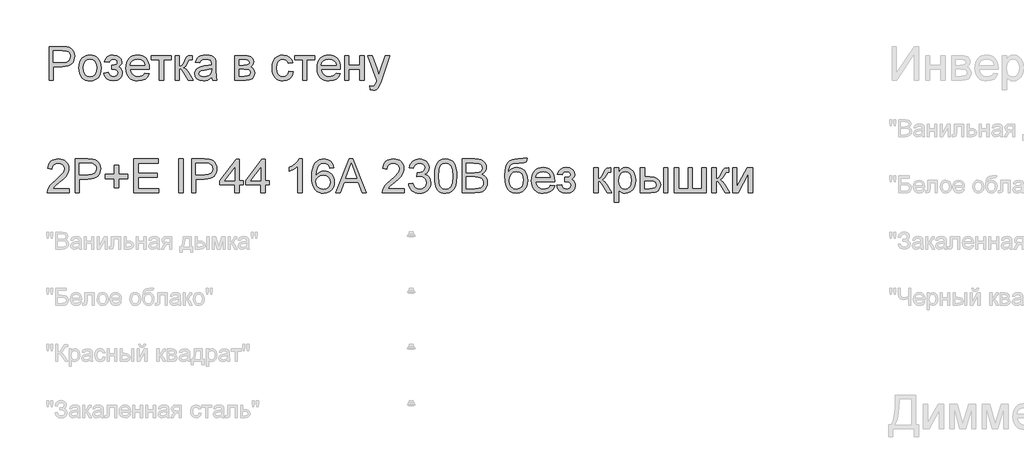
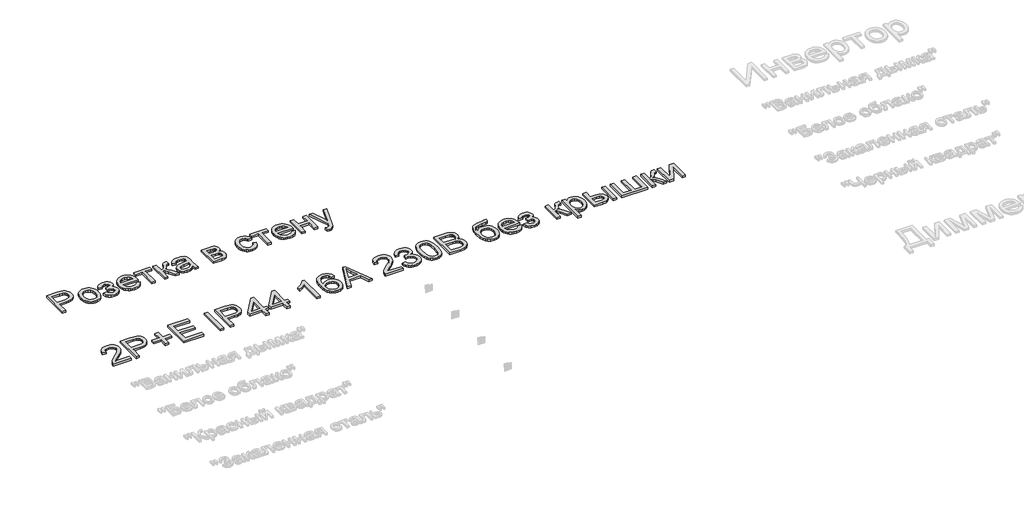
# One storey, part 163 of 168: 2 proxies.
"""IFC4 building model written with IfcOpenShell, lengths in millimetres."""

from ifc_helpers import new_model, si_unit, origin, origin_with_axes, place, context, project, spatial, polyline, outline, extrude, element, save

model = new_model("IFC4")

# Units and contexts
model_context = context("Model", 3, world=origin())
ifc_project = project(units=[si_unit("LENGTHUNIT", "METRE", prefix="MILLI")], contexts=[model_context])

# Site, building, storey
site = spatial("IfcSite", under=ifc_project)
building = spatial("IfcBuilding", under=site)
storey = spatial("IfcBuildingStorey", under=building, Name="Этаж 01", Elevation=0.0)

# Proxies
placement = place(None, origin())
element("IfcBuildingElementProxy", 1, Name="300 мм Arial 2", ObjectType="300 мм Arial 2", at=placement, inside=storey, context=model_context, shape_type="SweptSolid", body=[
    extrude(outline(polyline([(63599.0945017, -5048.4056816), (63599.0945017, -4747.0367511), (63710.7834754, -4747.0367511), (63755.8122316, -4749.9062307), (63775.8893915, -4755.2681108), (63792.4164901, -4763.9961111), (63805.7246213, -4776.4857048), (63816.1448788, -4793.1323651), (63822.8771193, -4812.7680666), (63825.1211995, -4834.224784), (63823.6059855, -4852.7246498), (63819.0603436, -4869.7437906), (63811.4842738, -4885.2822064), (63800.877776, -4899.3398971), (63786.3165468, -4910.9925593), (63766.8762826, -4919.3158895), (63742.5569835, -4924.3098875), (63713.3586494, -4925.9745536), (63636.765618, -4925.9745536), (63636.765618, -5048.4056816), (63599.0945017, -5048.4056816)]), holes=[polyline([(63636.765618, -4888.3034373), (63715.5659413, -4888.3034373), (63748.9696265, -4884.8453465), (63771.0425462, -4874.4710742), (63783.3481989, -4857.824414), (63787.4500832, -4835.5491592), (63785.0312591, -4818.6265874), (63777.7747867, -4804.352766), (63766.581977, -4793.6106117), (63752.3541408, -4787.2830414), (63714.6830245, -4784.7078674), (63636.765618, -4784.7078674), (63636.765618, -4888.3034373)])]), origin_with_axes(), (0.0, 0.0, 1.0), 20.0),
    extrude(outline(polyline([(63862.7923158, -4937.7467774), (63864.8294623, -4909.0841715), (63870.940902, -4884.385494), (63881.1266347, -4863.6507451), (63895.3866606, -4846.8799246), (63909.7432554, -4836.160763), (63925.5897724, -4828.504219), (63942.9262114, -4823.9102925), (63961.7525725, -4822.3789837), (63982.535606, -4824.2436856), (64001.3274781, -4829.8377912), (64018.128189, -4839.1613005), (64032.9377386, -4852.2142135), (64045.0249614, -4868.5550719), (64053.6586919, -4887.7424172), (64058.8389303, -4909.7762495), (64060.5656764, -4934.6565687), (64057.5122558, -4972.7139611), (64048.3519942, -5001.6846682), (64033.3516058, -5023.3805088), (64012.7778052, -5039.6133019), (63988.3412437, -5049.7392538), (63961.7525725, -5053.1145711), (63940.6660364, -5051.256767), (63921.6994203, -5045.6833548), (63904.8527242, -5036.3943344), (63890.125948, -5023.3897059), (63878.1674839, -5006.8901984), (63869.6257239, -4987.1165412), (63864.5006678, -4964.0687342), (63862.7923158, -4937.7467774)]), holes=[polyline([(63900.4634321, -4937.673201), (63904.8228337, -4971.7666649), (63917.9010387, -4996.0560737), (63937.5827254, -5010.5966095), (63961.7525725, -5015.4434548), (63985.812055, -5010.5690184), (64005.4569535, -4995.9457091), (64018.5351585, -4971.3344036), (64022.8945601, -4936.4959786), (64018.5075673, -4903.3957961), (64005.3465889, -4879.4374812), (63985.6740992, -4864.8969453), (63961.7525725, -4860.0501), (63937.5827254, -4864.8785512), (63917.9010387, -4879.3639048), (63904.8228337, -4903.5981312), (63900.4634321, -4937.673201)])]), origin_with_axes(), (0.0, 0.0, 1.0), 20.0),
    extrude(outline(polyline([(64154.7434672, -4949.5190013), (64154.7434672, -4911.847885), (64184.4683324, -4910.376357), (64199.4779178, -4902.5404705), (64204.7754185, -4895.1920276), (64206.5412521, -4886.1697217), (64204.1776103, -4875.4551586), (64197.0866848, -4867.1502225), (64186.2617571, -4861.8251307), (64172.6961085, -4860.0501), (64158.9833072, -4861.8159336), (64147.4961919, -4867.1134343), (64138.2347626, -4875.9426022), (64131.1990195, -4888.3034373), (64088.8190136, -4883.5945477), (64100.0578086, -4856.8127385), (64117.1459273, -4837.6828747), (64140.0833697, -4826.2049565), (64168.8701358, -4822.3789837), (64200.3608346, -4827.041888), (64224.1995879, -4841.0306009), (64239.2091733, -4861.4940369), (64244.2123684, -4885.5811105), (64242.4327392, -4897.9419455), (64237.0938518, -4908.9784054), (64228.195706, -4918.6904901), (64215.738302, -4927.0781996), (64230.2788378, -4937.5444423), (64240.643913, -4950.5490709), (64246.8519217, -4966.1288733), (64248.9212579, -4984.320638), (64243.6697425, -5012.0497434), (64227.915196, -5034.0214956), (64202.7244764, -5048.3413022), (64169.1644414, -5053.1145711), (64136.3401704, -5048.6999872), (64111.2230271, -5035.4562353), (64093.8130117, -5013.3833156), (64084.1101241, -4982.481228), (64126.4901299, -4977.7723385), (64132.8360944, -4993.7016289), (64143.4862781, -5005.5842173), (64157.2082765, -5012.9786454), (64172.7696849, -5015.4434548), (64187.9264231, -5013.079813), (64200.2872582, -5005.9888875), (64208.5094208, -4995.2191421), (64211.2501416, -4981.8190404), (64209.5486874, -4971.2056449), (64204.4443247, -4962.0269891), (64189.9497741, -4951.4319876), (64162.1011071, -4949.2982721), (64154.7434672, -4949.5190013)])), origin_with_axes(), (0.0, 0.0, 1.0), 20.0),
    extrude(outline(polyline([(64450.9620497, -4982.481228), (64487.897402, -4987.1901176), (64474.5892708, -5015.0203905), (64453.3532827, -5035.8241173), (64424.6676841, -5048.7919577), (64389.0107217, -5053.1145711), (64365.6364194, -5051.2498692), (64344.8097, -5045.6557637), (64326.5305633, -5036.3322543), (64310.7990095, -5023.2793413), (64298.1484674, -5006.860308), (64289.1123659, -4987.4384379), (64283.690705, -4965.013731), (64281.8834847, -4939.5861874), (64283.7090991, -4913.2964203), (64289.1859423, -4890.1244531), (64298.3140143, -4870.0702859), (64311.0933151, -4853.1339185), (64326.7834822, -4839.6786346), (64344.6441531, -4830.0677174), (64364.6753277, -4824.3011672), (64386.8770061, -4822.3789837), (64408.3636139, -4824.2965686), (64427.794681, -4830.0493233), (64445.1702075, -4839.6372478), (64460.4901934, -4853.0603421), (64472.9958819, -4869.9599213), (64481.9285166, -4889.9773003), (64487.2880975, -4913.1124793), (64489.0746244, -4939.3654582), (64488.8538952, -4949.5190013), (64319.554601, -4949.5190013), (64326.0753094, -4977.7171562), (64341.2228505, -4998.4473066), (64363.0842381, -5011.1944178), (64389.7464857, -5015.4434548), (64409.7960544, -5013.4752861), (64426.681838, -5007.5707801), (64440.4038364, -4997.3620547), (64450.9620497, -4982.481228)]), holes=[polyline([(64319.554601, -4911.847885), (64451.4035081, -4911.847885), (64446.3083425, -4891.945469), (64436.3203463, -4877.7084358), (64414.3577912, -4864.464684), (64386.7298533, -4860.0501), (64361.3367986, -4863.5725701), (64340.3399337, -4874.1399805), (64325.7442156, -4890.6118968), (64319.554601, -4911.847885)])]), origin_with_axes(), (0.0, 0.0, 1.0), 20.0),
    extrude(outline(polyline([(64507.9101825, -4827.0878733), (64686.847985, -4827.0878733), (64686.847985, -4864.7589896), (64616.2146419, -4864.7589896), (64616.2146419, -5048.4056816), (64578.5435256, -5048.4056816), (64578.5435256, -4864.7589896), (64507.9101825, -4864.7589896), (64507.9101825, -4827.0878733)])), origin_with_axes(), (0.0, 0.0, 1.0), 20.0),
    extrude(outline(polyline([(64719.8102118, -4827.0878733), (64757.4813281, -4827.0878733), (64757.4813281, -4921.265664), (64772.8036132, -4919.5734069), (64782.7180329, -4914.4966353), (64791.4920185, -4901.2528835), (64803.3930011, -4875.0596854), (64820.5730902, -4841.0306009), (64835.7298284, -4829.9573528), (64863.2841899, -4827.0878733), (64870.494677, -4827.0878733), (64870.494677, -4864.9797188), (64860.3411339, -4864.7589896), (64841.9470342, -4868.7321151), (64828.9975879, -4893.5273616), (64813.8040615, -4920.345959), (64792.503694, -4933.4793463), (64804.4414648, -4938.7814455), (64816.2688709, -4948.1394438), (64839.5925894, -4979.0231373), (64879.9124561, -5048.4056816), (64837.0909918, -5048.4056816), (64797.5804655, -4980.4946653), (64777.7148378, -4951.7630814), (64768.4258174, -4946.5483542), (64757.4813281, -4944.8101117), (64757.4813281, -5048.4056816), (64719.8102118, -5048.4056816), (64719.8102118, -4827.0878733)])), origin_with_axes(), (0.0, 0.0, 1.0), 20.0),
    extrude(outline(polyline([(65044.7235899, -5020.1523443), (65026.7249633, -5035.584994), (65008.1929078, -5045.6833548), (64988.7043591, -5051.256767), (64967.8362529, -5053.1145711), (64936.3547512, -5048.6448049), (64913.1322002, -5035.2355061), (64898.8123936, -5014.8732377), (64894.0391247, -4989.5445623), (64895.8417465, -4973.9279716), (64901.2496118, -4959.7461207), (64909.591336, -4947.6060149), (64920.1955345, -4938.1146594), (64946.5726736, -4925.7538244), (64979.1670184, -4920.0884417), (65017.6842633, -4914.1287533), (65044.5028607, -4907.1389954), (65044.7235899, -4898.7512859), (65042.1300218, -4881.9390788), (65034.3493176, -4870.9394071), (65016.9484993, -4862.7724268), (64992.7050758, -4860.0501), (64970.2642741, -4861.8619189), (64954.5925011, -4867.2973753), (64943.9055291, -4877.3497509), (64936.4191305, -4893.0123268), (64898.7480142, -4888.3034373), (64905.2871167, -4867.7020455), (64915.0451866, -4851.5152378), (64928.9327319, -4839.1360086), (64947.8602606, -4829.9573528), (64971.0092351, -4824.273576), (64997.5611181, -4822.3789837), (65023.0277492, -4824.0528468), (65043.2152737, -4829.074436), (65058.4363913, -4836.625214), (65069.0038016, -4845.8866432), (65076.0119536, -4857.3369703), (65080.5552962, -4871.4544419), (65082.3947062, -4904.4166687), (65082.3947062, -4951.2848348), (65084.3076926, -5016.7310418), (65091.8124853, -5048.4056816), (65054.141369, -5048.4056816), (65044.7235899, -5020.1523443)]), holes=[polyline([(65044.7235899, -4944.8101117), (64983.9494843, -4956.3616064), (64951.5390805, -4962.4684475), (64936.8605889, -4972.4012614), (64931.710241, -4986.895812), (64934.5153412, -4998.0978187), (64942.9306418, -5007.2764745), (64956.7722019, -5013.4017097), (64975.8560804, -5015.4434548), (64996.0895901, -5013.1901776), (65013.9686551, -5006.4303459), (65028.4632057, -4996.4699409), (65038.5431724, -4984.6149436), (65043.0129386, -4972.4012614), (65044.5028607, -4955.4786896), (65044.7235899, -4944.8101117)])]), origin_with_axes(), (0.0, 0.0, 1.0), 20.0),
    extrude(outline(polyline([(65251.9147296, -4827.0878733), (65334.9089077, -4827.0878733), (65361.5895494, -4828.3478691), (65380.4159105, -4832.1278566), (65394.2666676, -4839.2647673), (65406.0204974, -4850.5955328), (65414.0495219, -4865.3567978), (65416.7258634, -4882.7852073), (65415.1071826, -4896.8291025), (65410.2511403, -4908.9416172), (65402.1393423, -4919.1779337), (65390.7533946, -4927.5932344), (65404.6961222, -4935.4199238), (65416.0636758, -4948.0106851), (65423.6236508, -4964.3722368), (65426.1436425, -4983.5112976), (65419.7608899, -5012.2244873), (65404.5857576, -5032.439603), (65380.5630633, -5044.4141619), (65347.6376247, -5048.4056816), (65251.9147296, -5048.4056816), (65251.9147296, -4827.0878733)]), holes=[polyline([(65289.5858459, -4911.847885), (65326.8155038, -4911.847885), (65357.5336504, -4909.9348986), (65372.4696594, -4902.2829531), (65377.4084752, -4895.9553828), (65379.0547471, -4888.4505901), (65376.1668735, -4877.2117951), (65367.5032525, -4869.9829139), (65351.8498736, -4866.0649707), (65327.9927262, -4864.7589896), (65289.5858459, -4864.7589896), (65289.5858459, -4911.847885)]), polyline([(65289.5858459, -5010.7345653), (65335.7918245, -5010.7345653), (65360.9733471, -5009.033111), (65376.7738788, -5003.9287484), (65385.2535587, -4994.648925), (65388.4725262, -4980.4210889), (65386.8630425, -4970.9941127), (65382.0345913, -4962.2845065), (65374.6217691, -4955.4694925), (65365.2591723, -4951.7262932), (65332.1130045, -4949.5190013), (65289.5858459, -4949.5190013), (65289.5858459, -5010.7345653)])]), origin_with_axes(), (0.0, 0.0, 1.0), 20.0),
    extrude(outline(polyline([(65732.2214625, -4968.3545594), (65769.8925788, -4973.063449), (65759.3895478, -5006.5683017), (65739.6526788, -5031.88778), (65712.5397757, -5047.8078733), (65679.9086428, -5053.1145711), (65658.7807199, -5051.2636648), (65639.8370965, -5045.710946), (65623.0777723, -5036.4564145), (65608.5027475, -5023.5000705), (65596.7052318, -5007.0856357), (65588.2784348, -4987.456832), (65583.2223567, -4964.6136594), (65581.5369973, -4938.5561178), (65584.4156739, -4905.032871), (65593.0517037, -4875.9793904), (65607.5830425, -4852.5177162), (65628.1476461, -4835.7698884), (65652.7497545, -4825.7267099), (65679.393608, -4822.3789837), (65711.2245976, -4826.9775087), (65736.6728346, -4840.7730835), (65754.9289786, -4863.0299442), (65765.1836893, -4893.0123268), (65727.512573, -4897.7212163), (65720.6791649, -4881.2860882), (65710.0381782, -4869.5046673), (65696.178224, -4862.4137419), (65679.6879136, -4860.0501), (65655.3433225, -4864.7038073), (65636.0203208, -4878.664929), (65623.4111654, -4902.6876233), (65619.2081136, -4937.5260482), (65623.3191949, -4972.8335227), (65635.6524388, -4996.9389904), (65654.6259527, -5010.8173387), (65678.657844, -5015.4434548), (65698.1647868, -5012.5555811), (65714.1584565, -5003.8919602), (65725.7927246, -4989.2318626), (65732.2214625, -4968.3545594)])), origin_with_axes(), (0.0, 0.0, 1.0), 20.0),
    extrude(outline(polyline([(65784.0192474, -4827.0878733), (65962.9570499, -4827.0878733), (65962.9570499, -4864.7589896), (65892.3237068, -4864.7589896), (65892.3237068, -5048.4056816), (65854.6525905, -5048.4056816), (65854.6525905, -4864.7589896), (65784.0192474, -4864.7589896), (65784.0192474, -4827.0878733)])), origin_with_axes(), (0.0, 0.0, 1.0), 20.0),
    extrude(outline(polyline([(66150.871173, -4982.481228), (66187.8065253, -4987.1901176), (66174.4983941, -5015.0203905), (66153.262406, -5035.8241173), (66124.5768074, -5048.7919577), (66088.919845, -5053.1145711), (66065.5455427, -5051.2498692), (66044.7188233, -5045.6557637), (66026.4396867, -5036.3322543), (66010.7081328, -5023.2793413), (65998.0575907, -5006.860308), (65989.0214892, -4987.4384379), (65983.5998283, -4965.013731), (65981.792608, -4939.5861874), (65983.6182224, -4913.2964203), (65989.0950656, -4890.1244531), (65998.2231376, -4870.0702859), (66011.0024384, -4853.1339185), (66026.6926055, -4839.6786346), (66044.5532764, -4830.0677174), (66064.584451, -4824.3011672), (66086.7861294, -4822.3789837), (66108.2727372, -4824.2965686), (66127.7038044, -4830.0493233), (66145.0793308, -4839.6372478), (66160.3993167, -4853.0603421), (66172.9050053, -4869.9599213), (66181.8376399, -4889.9773003), (66187.1972208, -4913.1124793), (66188.9837477, -4939.3654582), (66188.7630185, -4949.5190013), (66019.4637243, -4949.5190013), (66025.9844327, -4977.7171562), (66041.1319738, -4998.4473066), (66062.9933614, -5011.1944178), (66089.655609, -5015.4434548), (66109.7051777, -5013.4752861), (66126.5909613, -5007.5707801), (66140.3129597, -4997.3620547), (66150.871173, -4982.481228)]), holes=[polyline([(66019.4637243, -4911.847885), (66151.3126314, -4911.847885), (66146.2174658, -4891.945469), (66136.2294696, -4877.7084358), (66114.2669145, -4864.464684), (66086.6389766, -4860.0501), (66061.2459219, -4863.5725701), (66040.2490571, -4874.1399805), (66025.6533389, -4890.6118968), (66019.4637243, -4911.847885)])]), origin_with_axes(), (0.0, 0.0, 1.0), 20.0),
    extrude(outline(polyline([(66226.654864, -4827.0878733), (66264.3259803, -4827.0878733), (66264.3259803, -4911.847885), (66363.2126606, -4911.847885), (66363.2126606, -4827.0878733), (66400.8837769, -4827.0878733), (66400.8837769, -5048.4056816), (66363.2126606, -5048.4056816), (66363.2126606, -4949.5190013), (66264.3259803, -4949.5190013), (66264.3259803, -5048.4056816), (66226.654864, -5048.4056816), (66226.654864, -4827.0878733)])), origin_with_axes(), (0.0, 0.0, 1.0), 20.0),
    extrude(outline(polyline([(66457.3904514, -5133.1656933), (66452.6815618, -5096.8925285), (66471.8114256, -5100.2034665), (66489.6904906, -5096.0463999), (66500.653374, -5084.4581171), (66510.9540699, -5056.7198147), (66513.8971258, -5047.5963412), (66433.8460037, -4827.0878733), (66473.5772592, -4827.0878733), (66516.0308414, -4949.9604597), (66530.8196976, -4999.1094942), (66545.6085538, -4955.6994188), (66589.2393585, -4827.0878733), (66628.6763083, -4827.0878733), (66551.6418185, -5053.7031823), (66531.629038, -5102.8522169), (66521.3835244, -5118.5423839), (66509.7768475, -5129.4132969), (66496.2939724, -5135.7592613), (66480.4198643, -5137.8745828), (66457.3904514, -5133.1656933)])), origin_with_axes(), (0.0, 0.0, 1.0), 20.0),
])
element("IfcBuildingElementProxy", 2, Name="300 мм Arial 2", ObjectType="300 мм Arial 2", at=placement, inside=storey, context=model_context, shape_type="SweptSolid", body=[
    extrude(outline(polyline([(63778.0323041, -6010.7345653), (63778.0323041, -6048.4056816), (63580.2589435, -6048.4056816), (63584.3056455, -6022.4332127), (63593.5946658, -6002.1353236), (63607.1879056, -5982.4444398), (63626.8511982, -5961.8338511), (63654.3503773, -5938.776847), (63695.0013378, -5902.6692292), (63719.3919141, -5876.0161786), (63731.5872022, -5854.3847173), (63735.6522983, -5833.3418672), (63731.8171285, -5814.4787179), (63720.3116191, -5798.7977478), (63702.6256922, -5788.2303375), (63680.2492698, -5784.7078674), (63656.7508074, -5788.1475641), (63638.4946633, -5798.466654), (63626.7132424, -5814.8557969), (63622.6389493, -5836.5056523), (63584.967833, -5831.7967628), (63594.1005036, -5795.3580512), (63602.6468622, -5780.8221139), (63613.8465697, -5768.7417888), (63627.4421086, -5759.2458348), (63643.1759617, -5752.4630105), (63681.0586102, -5747.0367511), (63701.2484339, -5748.5450673), (63719.2171701, -5753.0700158), (63734.9648188, -5760.6115967), (63748.4913799, -5771.16981), (63759.3553951, -5783.9629064), (63767.1154059, -5798.2091366), (63771.7714124, -5813.9085008), (63773.3234146, -5831.0609988), (63771.6495515, -5849.0780195), (63766.6279623, -5866.7823406), (63757.7160209, -5884.7901642), (63744.3711016, -5903.7176929), (63723.0983252, -5926.3148444), (63690.4028129, -5955.3315368), (63647.0663138, -5991.5679133), (63630.0701657, -6010.7345653), (63778.0323041, -6010.7345653)])), origin_with_axes(), (0.0, 0.0, 1.0), 20.0),
    extrude(outline(polyline([(63829.830089, -6048.4056816), (63829.830089, -5747.0367511), (63941.5190628, -5747.0367511), (63986.547819, -5749.9062307), (64006.6249789, -5755.2681108), (64023.1520775, -5763.9961111), (64036.4602087, -5776.4857048), (64046.8804662, -5793.1323651), (64053.6127067, -5812.7680666), (64055.8567869, -5834.224784), (64054.3415729, -5852.7246498), (64049.795931, -5869.7437906), (64042.2198612, -5885.2822064), (64031.6133634, -5899.3398971), (64017.0521342, -5910.9925593), (63997.61187, -5919.3158895), (63973.2925708, -5924.3098875), (63944.0942367, -5925.9745536), (63867.5012053, -5925.9745536), (63867.5012053, -6048.4056816), (63829.830089, -6048.4056816)]), holes=[polyline([(63867.5012053, -5888.3034373), (63946.3015287, -5888.3034373), (63979.7052139, -5884.8453465), (64001.7781336, -5874.4710742), (64014.0837863, -5857.824414), (64018.1856706, -5835.5491592), (64015.7668464, -5818.6265874), (64008.5103741, -5804.352766), (63997.3175644, -5793.6106117), (63983.0897282, -5787.2830414), (63945.4186119, -5784.7078674), (63867.5012053, -5784.7078674), (63867.5012053, -5888.3034373)])]), origin_with_axes(), (0.0, 0.0, 1.0), 20.0),
    extrude(outline(polyline([(64178.2879149, -6001.3167862), (64178.2879149, -5921.265664), (64098.2367927, -5921.265664), (64098.2367927, -5883.5945477), (64178.2879149, -5883.5945477), (64178.2879149, -5803.5434256), (64215.9590312, -5803.5434256), (64215.9590312, -5883.5945477), (64296.0101533, -5883.5945477), (64296.0101533, -5921.265664), (64215.9590312, -5921.265664), (64215.9590312, -6001.3167862), (64178.2879149, -6001.3167862)])), origin_with_axes(), (0.0, 0.0, 1.0), 20.0),
    extrude(outline(polyline([(64352.5168278, -6048.4056816), (64352.5168278, -5747.0367511), (64569.1257465, -5747.0367511), (64569.1257465, -5784.7078674), (64390.1879441, -5784.7078674), (64390.1879441, -5874.1767687), (64559.7079675, -5874.1767687), (64559.7079675, -5911.847885), (64390.1879441, -5911.847885), (64390.1879441, -6010.7345653), (64573.8346361, -6010.7345653), (64573.8346361, -6048.4056816), (64352.5168278, -6048.4056816)])), origin_with_axes(), (0.0, 0.0, 1.0), 20.0),
    extrude(outline(polyline([(64752.7724385, -6048.4056816), (64752.7724385, -5747.0367511), (64790.4435548, -5747.0367511), (64790.4435548, -6048.4056816), (64752.7724385, -6048.4056816)])), origin_with_axes(), (0.0, 0.0, 1.0), 20.0),
    extrude(outline(polyline([(64865.7857875, -6048.4056816), (64865.7857875, -5747.0367511), (64977.4747612, -5747.0367511), (65022.5035174, -5749.9062307), (65042.5806773, -5755.2681108), (65059.1077759, -5763.9961111), (65072.4159071, -5776.4857048), (65082.8361646, -5793.1323651), (65089.5684051, -5812.7680666), (65091.8124853, -5834.224784), (65090.2972713, -5852.7246498), (65085.7516294, -5869.7437906), (65078.1755596, -5885.2822064), (65067.5690618, -5899.3398971), (65053.0078326, -5910.9925593), (65033.5675684, -5919.3158895), (65009.2482693, -5924.3098875), (64980.0499352, -5925.9745536), (64903.4569038, -5925.9745536), (64903.4569038, -6048.4056816), (64865.7857875, -6048.4056816)]), holes=[polyline([(64903.4569038, -5888.3034373), (64982.2572271, -5888.3034373), (65015.6609123, -5884.8453465), (65037.733832, -5874.4710742), (65050.0394847, -5857.824414), (65054.141369, -5835.5491592), (65051.7225449, -5818.6265874), (65044.4660725, -5804.352766), (65033.2732628, -5793.6106117), (65019.0454266, -5787.2830414), (64981.3743103, -5784.7078674), (64903.4569038, -5784.7078674), (64903.4569038, -5888.3034373)])]), origin_with_axes(), (0.0, 0.0, 1.0), 20.0),
    extrude(outline(polyline([(65251.9147296, -6048.4056816), (65251.9147296, -5977.7723385), (65115.356933, -5977.7723385), (65115.356933, -5940.1012222), (65261.3325087, -5751.7456407), (65289.5858459, -5751.7456407), (65289.5858459, -5940.1012222), (65327.2569622, -5940.1012222), (65327.2569622, -5977.7723385), (65289.5858459, -5977.7723385), (65289.5858459, -6048.4056816), (65251.9147296, -6048.4056816)]), holes=[polyline([(65251.9147296, -5940.1012222), (65251.9147296, -5823.7033589), (65161.7100644, -5940.1012222), (65251.9147296, -5940.1012222)])]), origin_with_axes(), (0.0, 0.0, 1.0), 20.0),
    extrude(outline(polyline([(65482.650317, -6048.4056816), (65482.650317, -5977.7723385), (65346.0925204, -5977.7723385), (65346.0925204, -5940.1012222), (65492.068096, -5751.7456407), (65520.3214333, -5751.7456407), (65520.3214333, -5940.1012222), (65557.9925496, -5940.1012222), (65557.9925496, -5977.7723385), (65520.3214333, -5977.7723385), (65520.3214333, -6048.4056816), (65482.650317, -6048.4056816)]), holes=[polyline([(65482.650317, -5940.1012222), (65482.650317, -5823.7033589), (65392.4456517, -5940.1012222), (65482.650317, -5940.1012222)])]), origin_with_axes(), (0.0, 0.0, 1.0), 20.0),
    extrude(outline(polyline([(65849.9437009, -6048.4056816), (65812.2725846, -6048.4056816), (65812.2725846, -5813.5498158), (65776.5880311, -5838.9704617), (65736.930352, -5857.9899609), (65736.930352, -5822.3789837), (65766.5172615, -5806.2841464), (65792.1494395, -5787.1358886), (65812.3553581, -5766.7736202), (65825.6634893, -5747.0367511), (65849.9437009, -5747.0367511), (65849.9437009, -6048.4056816)])), origin_with_axes(), (0.0, 0.0, 1.0), 20.0),
    extrude(outline(polyline([(66132.4770732, -5827.0878733), (66094.8059569, -5831.7967628), (66088.735904, -5813.1267516), (66080.5321355, -5800.3796404), (66063.4440168, -5788.6258107), (66042.7874428, -5784.7078674), (66025.2762598, -5786.9887358), (66008.7951465, -5793.8313409), (65994.6408867, -5808.2431181), (65983.080195, -5828.0811547), (65975.2718997, -5856.1413538), (65972.3748289, -5895.2196188), (65987.4855819, -5877.5888742), (66005.5945731, -5865.1636598), (66025.6901271, -5857.7968228), (66046.7605684, -5855.3412105), (66064.8603625, -5857.0196721), (66081.5622051, -5862.0550569), (66096.8660961, -5870.4473649), (66110.7720355, -5882.1965961), (66122.3281287, -5896.6037748), (66130.582481, -5912.969925), (66135.5350923, -5931.2950469), (66137.1859628, -5951.5791404), (66134.0773599, -5978.5540877), (66124.7515513, -6003.5608664), (66109.9810892, -6024.7692634), (66090.5385258, -6040.3490659), (66067.3067778, -6049.9231948), (66041.168762, -6053.1145711), (66018.7118655, -6050.9992496), (65998.4300713, -6044.6532852), (65980.3233793, -6034.0766779), (65964.3917896, -6019.2694276), (65951.403256, -5999.6061349), (65942.1257319, -5974.4614005), (65936.5592174, -5943.8352244), (65934.7037126, -5907.7276066), (65936.7638518, -5867.2467916), (65942.9442693, -5832.6980737), (65953.2449652, -5804.081453), (65967.6659394, -5781.3969295), (65983.2963257, -5766.3643514), (66001.4191125, -5755.6267957), (66022.0342998, -5749.1842623), (66045.1418876, -5747.0367511), (66078.1960849, -5752.352646), (66104.6651944, -5768.3003304), (66123.206447, -5793.6290058), (66132.4770732, -5827.0878733)]), holes=[polyline([(65972.3748289, -5950.9905292), (65974.5545298, -5967.6831748), (65981.0936322, -5983.6216622), (65991.2471753, -5997.3252665), (66004.2701979, -6007.3132627), (66019.9879562, -6013.4109068), (66038.2257061, -6015.4434548), (66063.0853319, -6011.231206), (66082.6290629, -5998.5944594), (66095.2934006, -5978.7288317), (66099.5148465, -5952.8299392), (66095.3485829, -5927.9703134), (66082.8497921, -5909.0151936), (66062.9749673, -5897.0130435), (66036.6806017, -5893.0123268), (66011.8577641, -5897.0130435), (65991.1000225, -5909.0151936), (65977.0561273, -5927.5104609), (65972.3748289, -5950.9905292)])]), origin_with_axes(), (0.0, 0.0, 1.0), 20.0),
    extrude(outline(polyline([(66149.1789158, -6048.4056816), (66269.4763282, -5747.0367511), (66301.5556382, -5747.0367511), (66421.8530506, -6048.4056816), (66382.0482188, -6048.4056816), (66347.5408876, -5954.2278908), (66223.4175025, -5954.2278908), (66188.9837477, -6048.4056816), (66149.1789158, -6048.4056816)]), holes=[polyline([(66237.2498655, -5916.5567745), (66333.782101, -5916.5567745), (66306.6324098, -5842.4653407), (66285.5159832, -5784.7078674), (66266.7540015, -5835.9906176), (66237.2498655, -5916.5567745)])]), origin_with_axes(), (0.0, 0.0, 1.0), 20.0),
    extrude(outline(polyline([(66758.7593818, -6010.7345653), (66758.7593818, -6048.4056816), (66560.9860212, -6048.4056816), (66565.0327232, -6022.4332127), (66574.3217436, -6002.1353236), (66587.9149833, -5982.4444398), (66607.5782759, -5961.8338511), (66635.0774551, -5938.776847), (66675.7284155, -5902.6692292), (66700.1189918, -5876.0161786), (66712.3142799, -5854.3847173), (66716.379376, -5833.3418672), (66712.5442062, -5814.4787179), (66701.0386968, -5798.7977478), (66683.3527699, -5788.2303375), (66660.9763475, -5784.7078674), (66637.4778851, -5788.1475641), (66619.2217411, -5798.466654), (66607.4403202, -5814.8557969), (66603.3660271, -5836.5056523), (66565.6949108, -5831.7967628), (66574.8275813, -5795.3580512), (66583.3739399, -5780.8221139), (66594.5736474, -5768.7417888), (66608.1691864, -5759.2458348), (66623.9030395, -5752.4630105), (66661.7856879, -5747.0367511), (66681.9755117, -5748.5450673), (66699.9442479, -5753.0700158), (66715.6918965, -5760.6115967), (66729.2184576, -5771.16981), (66740.0824728, -5783.9629064), (66747.8424836, -5798.2091366), (66752.4984901, -5813.9085008), (66754.0504923, -5831.0609988), (66752.3766292, -5849.0780195), (66747.35504, -5866.7823406), (66738.4430986, -5884.7901642), (66725.0981793, -5903.7176929), (66703.8254029, -5926.3148444), (66671.1298906, -5955.3315368), (66627.7933915, -5991.5679133), (66610.7972434, -6010.7345653), (66758.7593818, -6010.7345653)])), origin_with_axes(), (0.0, 0.0, 1.0), 20.0),
    extrude(outline(polyline([(66796.4304981, -5968.3545594), (66834.1016144, -5963.6456699), (66842.5353092, -5987.3188763), (66854.8869472, -6003.303349), (66871.7635337, -6012.4084283), (66893.7720741, -6015.4434548), (66919.5973901, -6011.2679942), (66939.5365943, -5998.7416122), (66952.2837054, -5980.0532069), (66956.5327424, -5957.391676), (66952.3204936, -5935.8797763), (66939.6837471, -5918.4329727), (66920.5538833, -5906.872281), (66896.8622828, -5903.0187171), (66870.4483556, -5907.1389954), (66874.6422103, -5869.4678791), (66880.675475, -5869.9093375), (66903.2450354, -5867.2054048), (66923.4233629, -5859.0936069), (66937.6603961, -5845.3716084), (66942.4060738, -5825.8370745), (66938.9663772, -5809.5674933), (66928.6472872, -5796.3697267), (66912.9019378, -5787.6233322), (66893.1834629, -5784.7078674), (66873.4281997, -5787.6509234), (66857.2781801, -5796.4800913), (66845.4875622, -5811.1953711), (66838.810504, -5831.7967628), (66801.1393877, -5827.0878733), (66812.2310298, -5793.2611238), (66831.9678989, -5768.0060248), (66858.9704373, -5752.2790696), (66891.8590877, -5747.0367511), (66915.5414911, -5749.6211221), (66937.2925141, -5757.3742352), (66955.6314316, -5769.6063115), (66969.0775185, -5785.6275724), (66977.3272722, -5804.0860515), (66980.0771901, -5823.6297825), (66977.465228, -5841.8399413), (66969.6293415, -5858.3578429), (66956.6798952, -5872.4293292), (66938.7272539, -5883.3002421), (66962.3084898, -5892.8283858), (66979.7828845, -5909.0519818), (66990.5986152, -5931.0881133), (66994.2038587, -5958.0538636), (66992.401237, -5977.1653332), (66986.9933716, -5994.7684867), (66977.9802628, -6010.863324), (66965.3619103, -6025.4498451), (66949.9890415, -6037.5531627), (66932.7123833, -6046.1983896), (66913.5319357, -6051.3855257), (66892.4476989, -6053.1145711), (66873.3914115, -6051.6384446), (66856.0273814, -6047.2100651), (66840.3556084, -6039.8294326), (66826.3760925, -6029.496547), (66814.6544525, -6016.8184138), (66805.7563067, -6002.4020381), (66799.6816553, -5986.24742), (66796.4304981, -5968.3545594)])), origin_with_axes(), (0.0, 0.0, 1.0), 20.0),
    extrude(outline(polyline([(67027.1660855, -5900.1492375), (67029.9343975, -5851.9107109), (67038.2393336, -5813.4394512), (67051.9981202, -5784.1468474), (67071.1279839, -5763.4442881), (67095.7668806, -5751.1386354), (67126.0527658, -5747.0367511), (67149.2661197, -5749.4647723), (67170.0514524, -5756.7488358), (67187.4338767, -5768.6038331), (67200.4385052, -5784.7446556), (67210.2609545, -5805.0333477), (67218.096841, -5829.3319534), (67223.2287948, -5860.1880558), (67224.9394461, -5900.1492375), (67222.1987253, -5948.1118526), (67213.9765627, -5986.4911418), (67200.3005495, -6015.8113368), (67181.1982769, -6036.5966695), (67156.504198, -6048.9850957), (67126.0527658, -6053.1145711), (67105.3042213, -6051.3211464), (67086.9101215, -6045.9408722), (67070.8704665, -6036.9737486), (67057.1852563, -6024.4197755), (67044.0518691, -6001.7260549), (67034.6708782, -5973.4497251), (67029.0422837, -5939.5907859), (67027.1660855, -5900.1492375)]), holes=[polyline([(67064.8372018, -5900.0756611), (67069.2517858, -5959.3322535), (67074.7700157, -5979.6002522), (67082.4955376, -5993.6280525), (67102.2140125, -6009.9896042), (67126.0527658, -6015.4434548), (67149.8915191, -6009.9712101), (67169.609994, -5993.5544761), (67177.3355159, -5979.5036831), (67182.8537459, -5959.240283), (67187.2683298, -5900.0756611), (67183.0008987, -5842.152641), (67177.6666097, -5821.9513209), (67170.1986052, -5807.5901275), (67150.5169185, -5790.4284325), (67125.6113074, -5784.7078674), (67102.0300715, -5789.7478508), (67083.0841488, -5804.8678008), (67075.1011095, -5820.5027856), (67069.3989386, -5841.5824239), (67064.8372018, -5900.0756611)])]), origin_with_axes(), (0.0, 0.0, 1.0), 20.0),
    extrude(outline(polyline([(67272.0283415, -6048.4056816), (67272.0283415, -5747.0367511), (67387.0282532, -5747.0367511), (67418.6569077, -5749.2532401), (67443.3509867, -5755.9027072), (67462.2785153, -5767.1506992), (67476.607519, -5783.162763), (67485.629825, -5801.9983212), (67488.6372603, -5821.7167961), (67486.1080715, -5839.8625756), (67478.5205054, -5856.9231031), (67465.8193795, -5871.849915), (67447.9495116, -5883.5945477), (67469.2958644, -5894.7413722), (67485.0688049, -5911.7007322), (67494.8084807, -5933.3505876), (67498.0550393, -5958.5688983), (67495.8385503, -5979.5841573), (67489.1890833, -5999.072706), (67479.2654664, -6015.6457899), (67467.2265281, -6027.9146544), (67452.4836572, -6036.7990046), (67434.4482424, -6043.2185454), (67386.1453364, -6048.4056816), (67272.0283415, -6048.4056816)]), holes=[polyline([(67309.6994578, -5869.4678791), (67378.4933909, -5869.4678791), (67418.6661048, -5866.2305176), (67432.728394, -5860.6479083), (67442.8359519, -5852.2877899), (67448.9335959, -5841.2789212), (67450.966144, -5827.7500609), (67449.0715517, -5814.6166736), (67443.3877749, -5803.1755436), (67434.1723309, -5794.2452082), (67421.6827371, -5788.6442048), (67373.2694666, -5784.7078674), (67309.6994578, -5784.7078674), (67309.6994578, -5869.4678791)]), polyline([(67309.6994578, -6010.7345653), (67386.9546768, -6010.7345653), (67414.9137084, -6009.2630373), (67438.5685207, -6001.0592688), (67454.2402937, -5984.320638), (67458.8480157, -5972.4932319), (67460.383923, -5958.9367803), (67458.5813013, -5943.1914309), (67453.1734359, -5929.6533735), (67443.7280657, -5919.0675691), (67429.8129292, -5912.1789788), (67410.1036513, -5908.3989913), (67383.2758568, -5907.1389954), (67309.6994578, -5907.1389954), (67309.6994578, -6010.7345653)])]), origin_with_axes(), (0.0, 0.0, 1.0), 20.0),
    extrude(outline(polyline([(67818.2595279, -5742.3278616), (67851.2217547, -5742.3278616), (67847.6532994, -5760.2345177), (67841.50967, -5771.721633), (67832.9932018, -5778.5182529), (67822.3062299, -5782.3534227), (67776.1738277, -5784.7078674), (67737.8681149, -5786.8783712), (67714.0385587, -5793.3898825), (67699.7831314, -5804.6838598), (67690.1998054, -5821.2017613), (67684.5620138, -5843.072346), (67682.1431897, -5870.4243723), (67697.2907309, -5849.3815222), (67714.7743227, -5834.3719368), (67734.6123593, -5825.377222), (67756.8232347, -5822.3789837), (67777.3464516, -5824.2850723), (67796.0210613, -5830.0033381), (67812.8470641, -5839.533781), (67827.8244598, -5852.8764011), (67840.1209155, -5869.4701784), (67848.9040981, -5888.7540927), (67854.1740077, -5910.7281441), (67855.9306442, -5935.3923327), (67852.4449623, -5971.3527977), (67841.9879166, -6000.2131402), (67826.748405, -6022.6447449), (67808.9153253, -6039.3189963), (67786.3273708, -6049.6656774), (67756.8232347, -6053.1145711), (67722.8217413, -6048.672396), (67697.3367161, -6035.3458707), (67678.5839314, -6015.0939669), (67664.7791596, -5989.8756561), (67656.2810855, -5951.9010372), (67653.4483941, -5893.3802088), (67655.234921, -5853.7156319), (67660.5945019, -5821.1005938), (67669.5271366, -5795.5350944), (67682.0328251, -5777.0191337), (67698.2449248, -5763.9018413), (67718.2967928, -5754.5323468), (67742.1884291, -5748.91065), (67769.9198338, -5747.0367511), (67811.8583812, -5746.1906225), (67818.2595279, -5742.3278616)]), holes=[polyline([(67818.2595279, -5934.2151103), (67814.1760378, -5904.5730185), (67801.9255674, -5880.8354328), (67782.2438806, -5865.2464332), (67755.8667416, -5860.0501), (67728.3675624, -5865.5407388), (67717.2805188, -5872.4040373), (67707.9685058, -5882.0126552), (67695.3317593, -5907.6632273), (67691.1195104, -5940.6898334), (67695.7732176, -5972.704764), (67709.7343394, -5996.2032265), (67730.5196721, -6010.6333977), (67755.6460124, -6015.4434548), (67780.9011113, -6009.8792396), (67800.8954978, -5993.1865941), (67813.9185204, -5967.3152928), (67818.2595279, -5934.2151103)])]), origin_with_axes(), (0.0, 0.0, 1.0), 20.0),
    extrude(outline(polyline([(68057.971436, -5982.481228), (68094.9067883, -5987.1901176), (68081.5986571, -6015.0203905), (68060.362669, -6035.8241173), (68031.6770704, -6048.7919577), (67996.020108, -6053.1145711), (67972.6458057, -6051.2498692), (67951.8190863, -6045.6557637), (67933.5399497, -6036.3322543), (67917.8083958, -6023.2793413), (67905.1578537, -6006.860308), (67896.1217522, -5987.4384379), (67890.7000913, -5965.013731), (67888.892871, -5939.5861874), (67890.7184854, -5913.2964203), (67896.1953286, -5890.1244531), (67905.3234006, -5870.0702859), (67918.1027014, -5853.1339185), (67933.7928685, -5839.6786346), (67951.6535394, -5830.0677174), (67971.684714, -5824.3011672), (67993.8863924, -5822.3789837), (68015.3730002, -5824.2965686), (68034.8040674, -5830.0493233), (68052.1795938, -5839.6372478), (68067.4995797, -5853.0603421), (68080.0052682, -5869.9599213), (68088.9379029, -5889.9773003), (68094.2974838, -5913.1124793), (68096.0840107, -5939.3654582), (68095.8632815, -5949.5190013), (67926.5639873, -5949.5190013), (67933.0846957, -5977.7171562), (67948.2322368, -5998.4473066), (67970.0936244, -6011.1944178), (67996.755872, -6015.4434548), (68016.8054407, -6013.4752861), (68033.6912243, -6007.5707801), (68047.4132227, -5997.3620547), (68057.971436, -5982.481228)]), holes=[polyline([(67926.5639873, -5911.847885), (68058.4128944, -5911.847885), (68053.3177288, -5891.945469), (68043.3297326, -5877.7084358), (68021.3671775, -5864.464684), (67993.7392396, -5860.0501), (67968.3461849, -5863.5725701), (67947.34932, -5874.1399805), (67932.7536019, -5890.6118968), (67926.5639873, -5911.847885)])]), origin_with_axes(), (0.0, 0.0, 1.0), 20.0),
    extrude(outline(polyline([(68185.5529119, -5949.5190013), (68185.5529119, -5911.847885), (68215.2777771, -5910.376357), (68230.2873625, -5902.5404705), (68235.5848633, -5895.1920276), (68237.3506968, -5886.1697217), (68234.987055, -5875.4551586), (68227.8961296, -5867.1502225), (68217.0712019, -5861.8251307), (68203.5055533, -5860.0501), (68189.7927519, -5861.8159336), (68178.3056366, -5867.1134343), (68169.0442074, -5875.9426022), (68162.0084642, -5888.3034373), (68119.6284584, -5883.5945477), (68130.8672533, -5856.8127385), (68147.955372, -5837.6828747), (68170.8928144, -5826.2049565), (68199.6795805, -5822.3789837), (68231.1702793, -5827.041888), (68255.0090326, -5841.0306009), (68270.018618, -5861.4940369), (68275.0218132, -5885.5811105), (68273.242184, -5897.9419455), (68267.9032965, -5908.9784054), (68259.0051508, -5918.6904901), (68246.5477467, -5927.0781996), (68261.0882826, -5937.5444423), (68271.4533578, -5950.5490709), (68277.6613665, -5966.1288733), (68279.7307027, -5984.320638), (68274.4791872, -6012.0497434), (68258.7246408, -6034.0214956), (68233.5339211, -6048.3413022), (68199.9738861, -6053.1145711), (68167.1496151, -6048.6999872), (68142.0324719, -6035.4562353), (68124.6224565, -6013.3833156), (68114.9195689, -5982.481228), (68157.2995747, -5977.7723385), (68163.6455391, -5993.7016289), (68174.2957229, -6005.5842173), (68188.0177213, -6012.9786454), (68203.5791297, -6015.4434548), (68218.7358679, -6013.079813), (68231.0967029, -6005.9888875), (68239.3188655, -5995.2191421), (68242.0595864, -5981.8190404), (68240.3581322, -5971.2056449), (68235.2537695, -5962.0269891), (68220.7592189, -5951.4319876), (68192.9105518, -5949.2982721), (68185.5529119, -5949.5190013)])), origin_with_axes(), (0.0, 0.0, 1.0), 20.0),
    extrude(outline(polyline([(68444.5418365, -5827.0878733), (68482.2129528, -5827.0878733), (68482.2129528, -5921.265664), (68497.5352379, -5919.5734069), (68507.4496577, -5914.4966353), (68516.2236433, -5901.2528835), (68528.1246258, -5875.0596854), (68545.304715, -5841.0306009), (68560.4614532, -5829.9573528), (68588.0158146, -5827.0878733), (68595.2263018, -5827.0878733), (68595.2263018, -5864.9797188), (68585.0727587, -5864.7589896), (68566.6786589, -5868.7321151), (68553.7292127, -5893.5273616), (68538.5356863, -5920.345959), (68517.2353188, -5933.4793463), (68529.1730895, -5938.7814455), (68541.0004957, -5948.1394438), (68564.3242142, -5979.0231373), (68604.6440808, -6048.4056816), (68561.8226166, -6048.4056816), (68522.3120903, -5980.4946653), (68502.4464626, -5951.7630814), (68493.1574422, -5946.5483542), (68482.2129528, -5944.8101117), (68482.2129528, -6048.4056816), (68444.5418365, -6048.4056816), (68444.5418365, -5827.0878733)])), origin_with_axes(), (0.0, 0.0, 1.0), 20.0),
    extrude(outline(polyline([(68628.1885285, -6133.1656933), (68628.1885285, -5827.0878733), (68665.8596448, -5827.0878733), (68665.8596448, -5864.0232256), (68678.1469035, -5845.8038698), (68691.9056901, -5832.7900442), (68707.9453451, -5824.9817488), (68727.0752088, -5822.3789837), (68752.551037, -5826.0210155), (68774.8262918, -5836.9471107), (68792.9628742, -5854.4950819), (68806.022685, -5878.0027414), (68813.9137538, -5905.7594379), (68816.5441101, -5936.0545202), (68813.5734629, -5968.271786), (68804.6615216, -5997.0861432), (68790.0933946, -6021.0352611), (68770.1541905, -6038.6568087), (68746.9316395, -6049.5001305), (68722.5134721, -6053.1145711), (68705.1954272, -6050.695747), (68689.7351863, -6043.4392746), (68676.5006315, -6032.4855882), (68665.8596448, -6018.975122), (68665.8596448, -6133.1656933), (68628.1885285, -6133.1656933)]), holes=[polyline([(68665.8596448, -5939.512611), (68669.9339379, -5973.2841782), (68682.1568172, -5996.9022022), (68700.192232, -6010.8081417), (68721.7041317, -6015.4434548), (68743.5655193, -6010.6425948), (68762.0607866, -5996.2400147), (68774.669942, -5971.7574679), (68778.8729937, -5936.7167078), (68774.7711095, -5903.1290817), (68762.4654568, -5879.1799638), (68744.4576331, -5864.832566), (68723.2492361, -5860.0501), (68701.9580656, -5865.1360686), (68683.2604632, -5880.3939744), (68670.2098494, -5905.3455707), (68665.8596448, -5939.512611)])]), origin_with_axes(), (0.0, 0.0, 1.0), 20.0),
    extrude(outline(polyline([(69066.1152556, -5827.0878733), (69103.7863719, -5827.0878733), (69103.7863719, -6048.4056816), (69066.1152556, -6048.4056816), (69066.1152556, -5827.0878733)])), origin_with_axes(), (0.0, 0.0, 1.0), 20.0),
    extrude(outline(polyline([(68858.9241159, -5827.0878733), (68896.5952322, -5827.0878733), (68896.5952322, -5907.1389954), (68943.1690928, -5907.1389954), (68983.4245801, -5911.857082), (68999.6412783, -5917.7546902), (69013.2506129, -5926.0113418), (69024.018059, -5936.3419281), (69031.709092, -5948.4613405), (69036.3237118, -5962.3695792), (69037.8619184, -5978.0666441), (69032.7023734, -6005.0231973), (69017.2237384, -6027.7675016), (69005.3618433, -6036.7967054), (68990.414338, -6043.2461366), (68951.2624967, -6048.4056816), (68858.9241159, -6048.4056816), (68858.9241159, -5827.0878733)]), holes=[polyline([(68896.5952322, -6010.7345653), (68935.2964181, -6010.7345653), (68965.2971948, -6008.7571995), (68985.254793, -6002.8251024), (68996.4567998, -5992.6991504), (69000.190802, -5978.1402205), (68997.42249, -5965.8345678), (68989.117554, -5954.9636548), (68971.3580507, -5947.3484975), (68940.2260368, -5944.8101117), (68896.5952322, -5944.8101117), (68896.5952322, -6010.7345653)])]), origin_with_axes(), (0.0, 0.0, 1.0), 20.0),
    extrude(outline(polyline([(69160.2930463, -5827.0878733), (69197.9641627, -5827.0878733), (69197.9641627, -6010.7345653), (69282.7241743, -6010.7345653), (69282.7241743, -5827.0878733), (69320.3952906, -5827.0878733), (69320.3952906, -6010.7345653), (69405.1553023, -6010.7345653), (69405.1553023, -5827.0878733), (69442.8264186, -5827.0878733), (69442.8264186, -6048.4056816), (69160.2930463, -6048.4056816), (69160.2930463, -5827.0878733)])), origin_with_axes(), (0.0, 0.0, 1.0), 20.0),
    extrude(outline(polyline([(69494.6242036, -5827.0878733), (69532.2953199, -5827.0878733), (69532.2953199, -5921.265664), (69547.617605, -5919.5734069), (69557.5320247, -5914.4966353), (69566.3060103, -5901.2528835), (69578.2069929, -5875.0596854), (69595.387082, -5841.0306009), (69610.5438202, -5829.9573528), (69638.0981817, -5827.0878733), (69645.3086688, -5827.0878733), (69645.3086688, -5864.9797188), (69635.1551257, -5864.7589896), (69616.761026, -5868.7321151), (69603.8115797, -5893.5273616), (69588.6180533, -5920.345959), (69567.3176858, -5933.4793463), (69579.2554566, -5938.7814455), (69591.0828627, -5948.1394438), (69614.4065812, -5979.0231373), (69654.7264479, -6048.4056816), (69611.9049836, -6048.4056816), (69572.3944573, -5980.4946653), (69552.5288296, -5951.7630814), (69543.2398092, -5946.5483542), (69532.2953199, -5944.8101117), (69532.2953199, -6048.4056816), (69494.6242036, -6048.4056816), (69494.6242036, -5827.0878733)])), origin_with_axes(), (0.0, 0.0, 1.0), 20.0),
    extrude(outline(polyline([(69678.2708956, -5827.0878733), (69715.9420119, -5827.0878733), (69715.9420119, -5995.8721327), (69808.5011218, -5827.0878733), (69857.208698, -5827.0878733), (69857.208698, -6048.4056816), (69819.5375817, -6048.4056816), (69819.5375817, -5880.6514918), (69727.5670829, -6048.4056816), (69678.2708956, -6048.4056816), (69678.2708956, -5827.0878733)])), origin_with_axes(), (0.0, 0.0, 1.0), 20.0),
])

save(model, "model.ifc")
